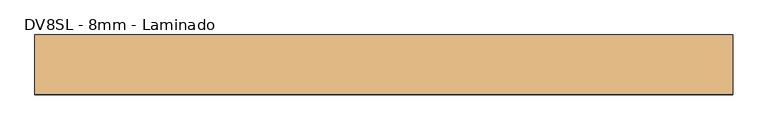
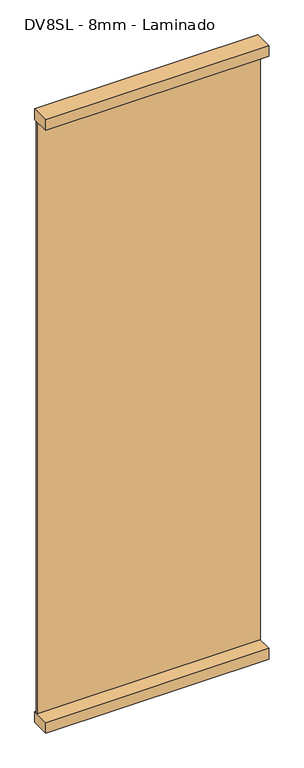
"""IFC4 building model written with IfcOpenShell, lengths in millimetres: door geometry, Mobiliário_Mobiliário de Escritório_Painel Vidro Simples - DVST e DVSL (Complementar)_Marelli : DV8SL - 8mm - Laminado."""

from ifc_helpers import new_model, si_unit, frame, origin, origin_with_axes, place, context, project, spatial, polyline, outline, extrude, source, transform, mapped, element, save


def dv8sl_8mm_laminado_95109997(model_context):
    return source(origin(), model_context, "Body", "SweptSolid", [
        extrude(outline(polyline([(500.0, 42.5), (500.0, -42.5), (-500.0, -42.5), (-500.0, 42.5), (500.0, 42.5)])), origin_with_axes(), (0.0, 0.0, 1.0), 50.0),
        extrude(outline(polyline([(500.0, 42.5), (500.0, -42.5), (-500.0, -42.5), (-500.0, 42.5), (500.0, 42.5)])), frame((0.0, 0.0, 2850.0), z_axis=(0.0, 0.0, 1.0), x_axis=(1.0, 0.0, 0.0)), (0.0, 0.0, 1.0), 50.0),
        extrude(outline(polyline([(500.0, 33.1), (500.0, 25.1), (-500.0, 25.1), (-500.0, 33.1), (500.0, 33.1)])), frame((0.0, 0.0, 50.0), z_axis=(0.0, 0.0, 1.0), x_axis=(1.0, 0.0, 0.0)), (0.0, 0.0, 1.0), 2800.0),
    ])


if __name__ == "__main__":
    model = new_model("IFC4")
    model_context = context("Model", 3, world=origin())
    ifc_project = project(units=[si_unit("LENGTHUNIT", "METRE", prefix="MILLI")], contexts=[model_context])
    site = spatial("IfcSite", under=ifc_project)
    building = spatial("IfcBuilding", under=site)
    placement = place(None, origin())
    dv8sl_8mm_laminado_shape = dv8sl_8mm_laminado_95109997(model_context)
    element("IfcDoor", 1, ObjectType="Mobiliário_Mobiliário de Escritório_Painel Vidro Simples - DVST e DVSL (Complementar)_Marelli : DV8SL - 8mm - Laminado", at=placement, inside=building, context=model_context, shape_type="MappedRepresentation", body=[
        mapped(dv8sl_8mm_laminado_shape, transform((0.0, 0.0, 0.0), x_axis=(1.0, 0.0, 0.0), y_axis=(0.0, 1.0, 0.0), z_axis=(0.0, 0.0, 1.0))),
    ])
    save(model, "model.ifc")
